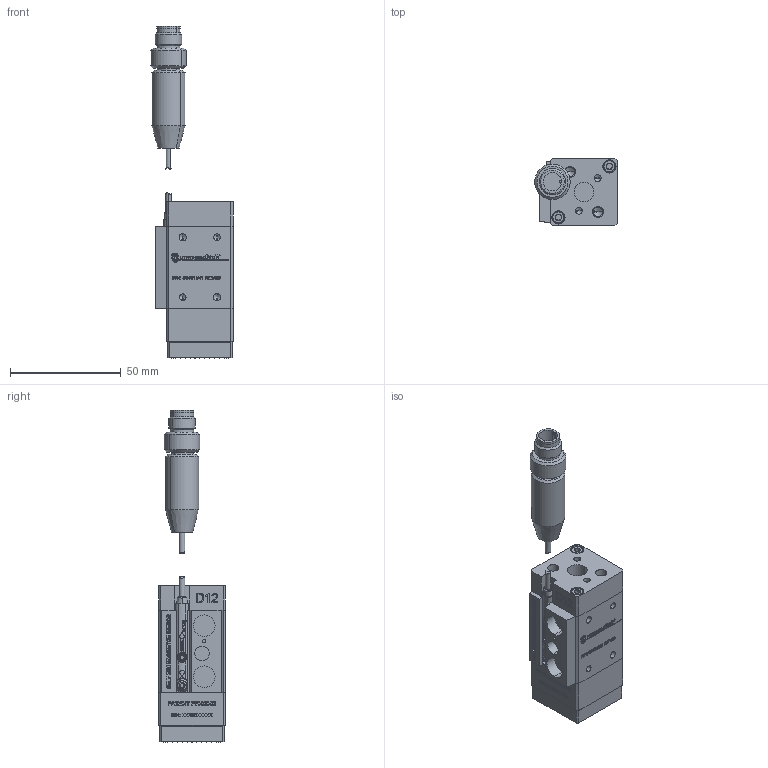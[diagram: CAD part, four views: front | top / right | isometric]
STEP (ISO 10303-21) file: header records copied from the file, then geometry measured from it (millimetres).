
FILE_DESCRIPTION (( 'STEP AP203' ), '1' );
FILE_NAME ('D12 with friction pad and sensor_s.STEP', '2023-11-07T22:10:14', ( '' ), ( '' ), 'SwSTEP 2.0', 'SolidWorks 2022', '' );
FILE_SCHEMA (( 'CONFIG_CONTROL_DESIGN' ));
Length unit declared in the file: millimetre
Products named in the file (1): D12 with friction pad and sensor_s
Bounding box: 37.13 x 30 x 149.61 mm (x, y, z)
Volume: 70621.5 mm3; surface area: 27590.5 mm2
Topology: 17 solids, 25 shells, 2380 faces, 6287 edges, 4100 vertices
Faces by surface type: plane 1326, bspline 404, cylinder 380, cone 156, torus 106, sphere 8
Entity records: 108969 total; most frequent: CARTESIAN_POINT 53705, ORIENTED_EDGE 12410, DIRECTION 9698, EDGE_CURVE 6205, VERTEX_POINT 4096, LINE 3944, VECTOR 3944, AXIS2_PLACEMENT_3D 2877
